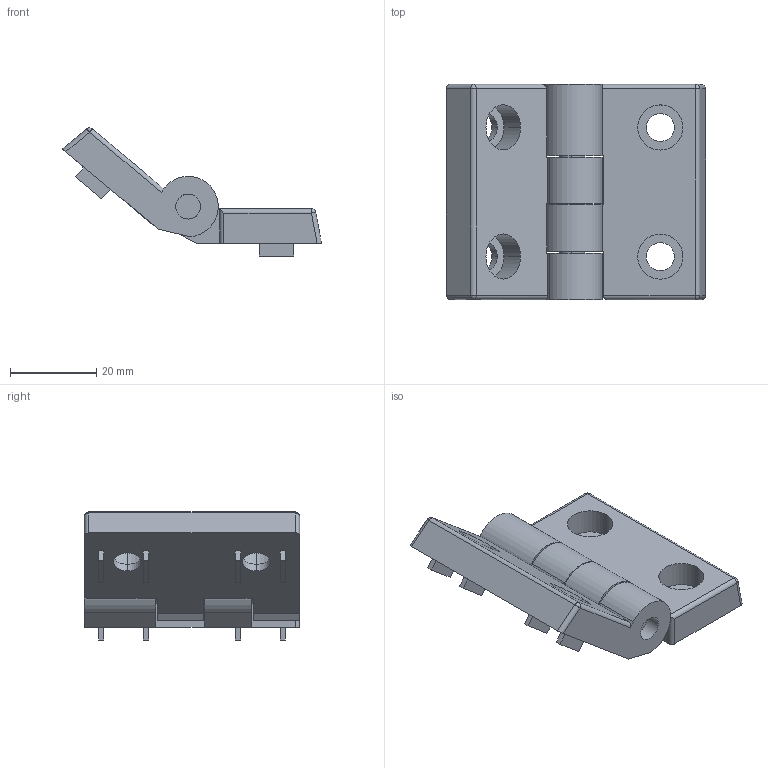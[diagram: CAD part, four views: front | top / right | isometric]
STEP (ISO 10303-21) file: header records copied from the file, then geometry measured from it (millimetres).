
FILE_DESCRIPTION (( 'STEP AP214' ), '1' );
FILE_NAME ('SNSD.30.51.05. Ïåòëÿ ïëàñòèêîâàÿ 40(E21).STEP', '2015-11-05T07:28:48', ( 'user' ), ( '' ), 'SwSTEP 2.0', 'SolidWorks 2014', '' );
FILE_SCHEMA (( 'AUTOMOTIVE_DESIGN' ));
Length unit declared in the file: millimetre
Products named in the file (7): SNSD.30.51.00. Ïåòëÿ ïëàñòèêîâàÿ ìàëàÿ ÷àñòü(B18)E20E21_00; SNSD.30.51.00. Ïåòëÿ ïëàñòèêîâàÿ (B18)E20E21_00; SNSD.30.51.00. ﾏ琿褻 (B18)E20E21; SNSD.30.51.00. Ïåòëÿ ïëàñòèêîâàÿ ìàëàÿ ÷àñòü(B18)E20E21; SNSD.30.51.00. Ïåòëÿ ïëàñòèêîâàÿ (B18)E20E21; SNSD.30.51.05. Ïåòëÿ ïëàñòèêîâàÿ 40(E21); SNSD.30.51.00. ﾏ琿褻 (B18)E20E21_00
Assembly tree (3 placements, depth 2):
  SNSD.30.51.00. ﾏ琿褻 (B18)E20E21
  SNSD.30.51.00. Ïåòëÿ ïëàñòèêîâàÿ ìàëàÿ ÷àñòü(B18)E20E21
  SNSD.30.51.00. Ïåòëÿ ïëàñòèêîâàÿ (B18)E20E21
  SNSD.30.51.05. Ïåòëÿ ïëàñòèêîâàÿ 40(E21)
    SNSD.30.51.00. Ïåòëÿ ïëàñòèêîâàÿ (B18)E20E21_00
    SNSD.30.51.00. Ïåòëÿ ïëàñòèêîâàÿ ìàëàÿ ÷àñòü(B18)E20E21_00
    SNSD.30.51.00. ﾏ琿褻 (B18)E20E21_00
Bounding box: 60.18 x 50 x 29.77 mm (x, y, z)
Volume: 24675.7 mm3; surface area: 12546.9 mm2
Topology: 3 solids, 3 shells, 124 faces, 308 edges, 198 vertices
Faces by surface type: plane 70, cylinder 50, sphere 4
Entity records: 3883 total; most frequent: CARTESIAN_POINT 669, DIRECTION 648, ORIENTED_EDGE 608, EDGE_CURVE 304, AXIS2_PLACEMENT_3D 221, VECTOR 206, LINE 206, VERTEX_POINT 198
